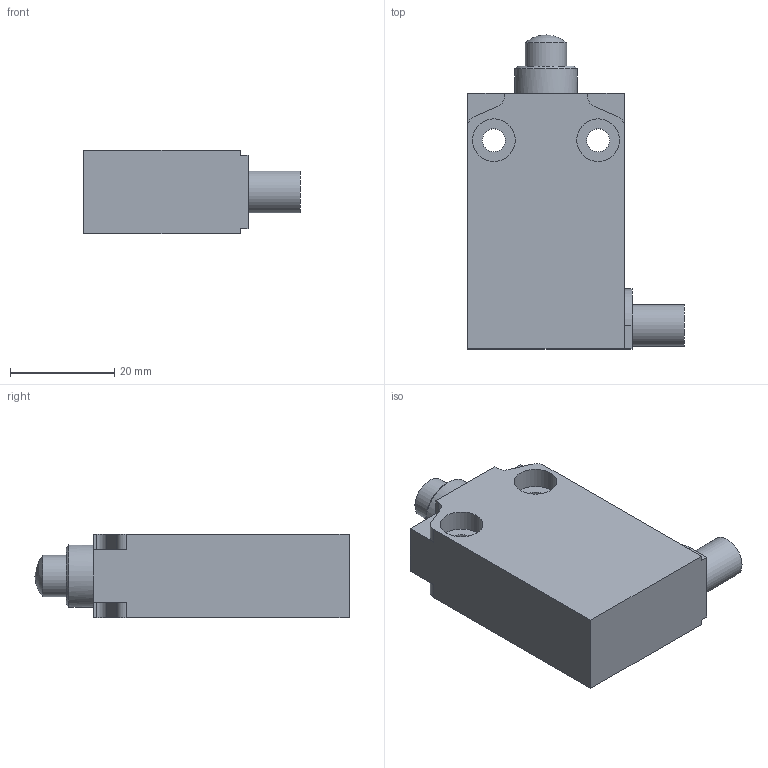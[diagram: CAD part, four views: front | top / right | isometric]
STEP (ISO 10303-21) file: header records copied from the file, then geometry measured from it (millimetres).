
FILE_DESCRIPTION(/* description */ (''),/* implementation_level */ '2;1');
FILE_NAME(/* name */ 'C:\Users\servizio.tecnico\Desktop\BERNSTEIN\3D\STP_EM1_G11U.stp',/* time_stamp */ '2020-06-26T09:41:34+02:00',/* author */ ('servizio.tecnico'),/* organization */ (''),/* preprocessor_version */ 'ST-DEVELOPER v17',/* originating_system */ 'Autodesk Inventor 2019',/* authorisation */ '');
FILE_SCHEMA (('AUTOMOTIVE_DESIGN { 1 0 10303 214 3 1 1 }'));
Length unit declared in the file: millimetre
Products named in the file (3): STP_EM1_G11U; EM1G11; Product
Assembly tree (2 placements, depth 3):
  STP_EM1_G11U
    EM1G11
      Product
Bounding box: 41.5 x 60.2 x 16 mm (x, y, z)
Volume: 23435.7 mm3; surface area: 7689.4 mm2
Topology: 3 solids, 3 shells, 78 faces, 195 edges, 130 vertices
Faces by surface type: plane 44, cylinder 27, cone 5, sphere 2
Full cylindrical faces by diameter (mm): 4.4 x2, 7.95 x1, 8 x1, 8.05 x1, 8.2 x4, 12 x1
Entity records: 2500 total; most frequent: CARTESIAN_POINT 432, DIRECTION 423, ORIENTED_EDGE 388, EDGE_CURVE 194, AXIS2_PLACEMENT_3D 155, VERTEX_POINT 130, LINE 113, VECTOR 113
